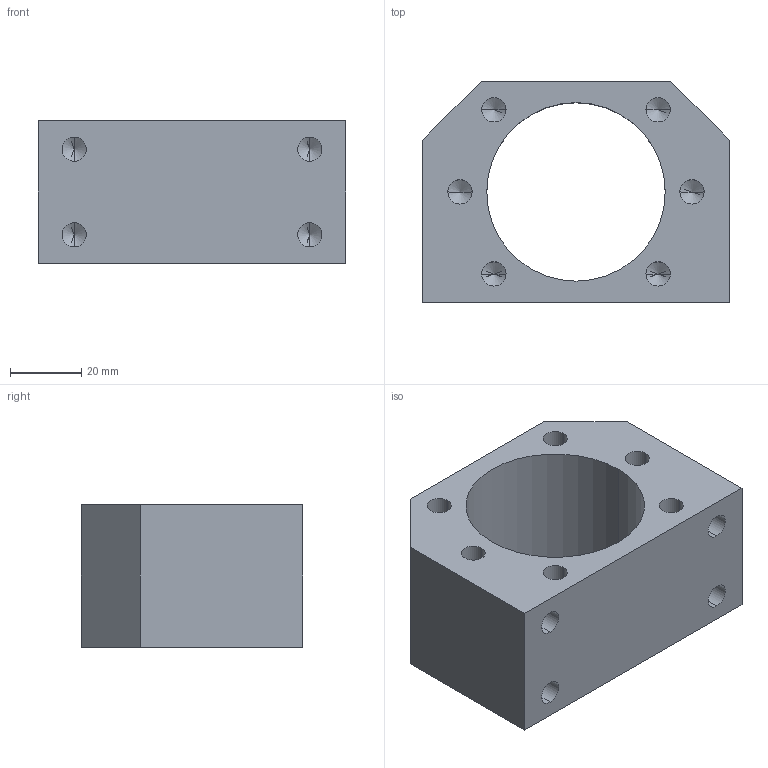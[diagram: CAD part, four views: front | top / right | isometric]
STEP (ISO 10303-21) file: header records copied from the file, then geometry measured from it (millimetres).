
FILE_DESCRIPTION (( 'STEP AP214' ), '1' );
FILE_NAME ('SSG3205.STEP', '2019-06-19T08:53:04', ( '' ), ( '' ), 'SwSTEP 2.0', 'SolidWorks 2016', '' );
FILE_SCHEMA (( 'AUTOMOTIVE_DESIGN' ));
Length unit declared in the file: millimetre
Products named in the file (1): SSG3205
Bounding box: 86 x 62 x 40 mm (x, y, z)
Volume: 116430.3 mm3; surface area: 27822.1 mm2
Topology: 1 solids, 1 shells, 50 faces, 124 edges, 66 vertices
Faces by surface type: cylinder 22, cone 20, plane 8
Entity records: 1590 total; most frequent: DIRECTION 250, CARTESIAN_POINT 221, ORIENTED_EDGE 208, EDGE_CURVE 104, AXIS2_PLACEMENT_3D 95, VERTEX_POINT 66, EDGE_LOOP 62, VECTOR 60
